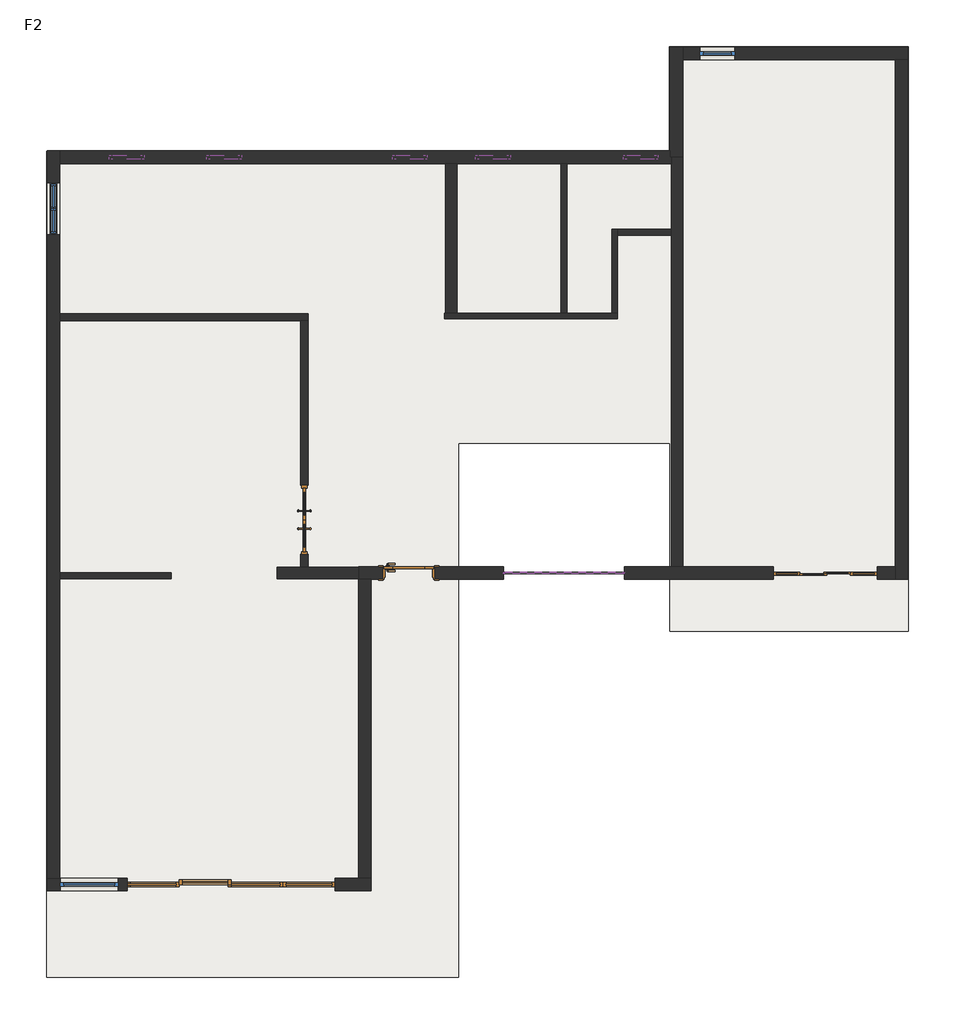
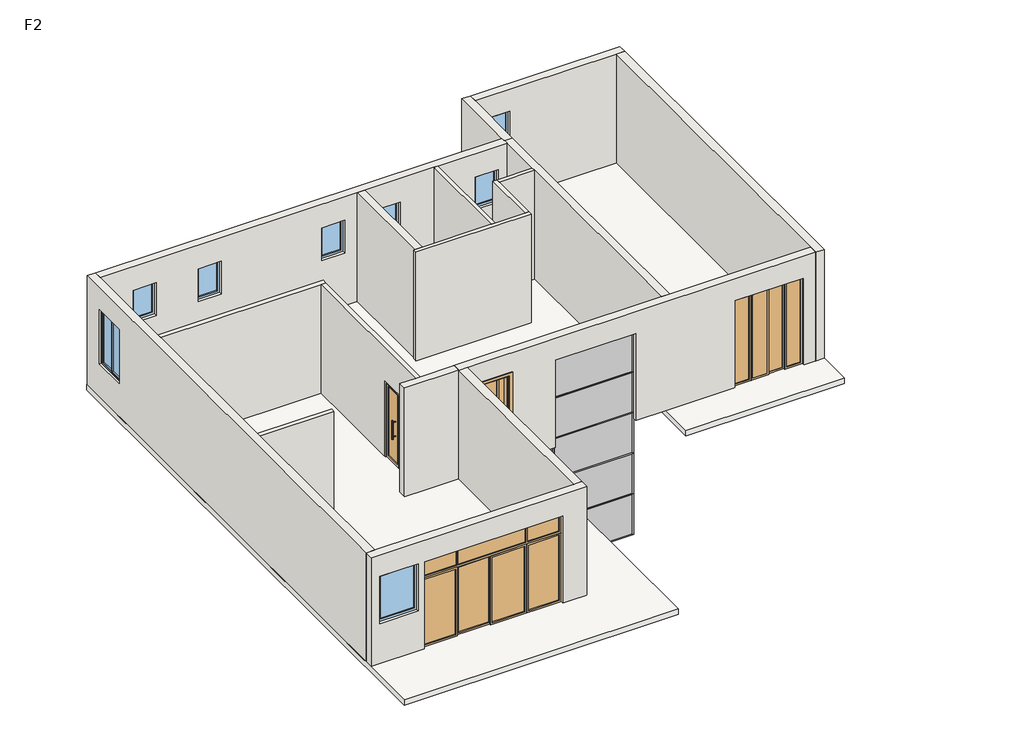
# One storey: 18 walls, 16 members, 8 windows, 5 plates, 4 doors, 1 slab.
"""IFC4 building model written with IfcOpenShell, lengths in millimetres."""

from ifc_helpers import new_model, si_unit, frame, origin, place, context, project, spatial, polyline, outline, extrude, faceted_brep, transform, mapped, element, save
from components import door_0924_8836e307, door_1200_x_2100mm_28484c29, ym3267_4c35834f, ym3627_ym3624_cbced519, member_36abf0b9, member_8a8b1aba, member_6a4487dd, member_cb581688, member_e9ca11cf, plate_7d49b9b0, plate_fc9b985f, c0615_c0609_9743c050, c0615_c0615_013a5557, c0615_c1023_ef9932f1, c0915_c0915_c0da6e5c

model = new_model("IFC4")

# Units and contexts
model_context = context("Model", 3, world=origin())
ifc_project = project(units=[si_unit("LENGTHUNIT", "METRE", prefix="MILLI")], contexts=[model_context])

# Site, building, storey
site = spatial("IfcSite", under=ifc_project)
building = spatial("IfcBuilding", under=site)
storey = spatial("IfcBuildingStorey", under=building, Name="F2", Elevation=3300.0)

# Doors
placement = place(None, origin())
door_0924_shape = door_0924_8836e307(model_context)
element("IfcDoor", 1, ObjectType="单扇平开门-木门 : 0924", at=placement, inside=storey, context=model_context, shape_type="MappedRepresentation", body=[
    mapped(door_0924_shape, transform((-10695.9782681, -8531.0286905, 3300.0), x_axis=(1.0, 0.0, 0.0), y_axis=(0.0, 1.0, 0.0), z_axis=(0.0, 0.0, 1.0))),
])
door_1200_x_2100mm_shape = door_1200_x_2100mm_28484c29(model_context)
element("IfcDoor", 2, ObjectType="双面嵌板玻璃门 : 1200 x 2100mm", at=placement, inside=storey, context=model_context, shape_type="MappedRepresentation", body=[
    mapped(door_1200_x_2100mm_shape, transform((-12505.9782681, -7611.0286905, 3300.0), x_axis=(0.0, -1.0, 0.0), y_axis=(1.0, 0.0, 0.0), z_axis=(0.0, 0.0, 1.0))),
])
ym3267_shape = ym3267_4c35834f(model_context)
element("IfcDoor", 3, ObjectType="移门-推拉门 : YM3267", at=placement, inside=storey, context=model_context, shape_type="MappedRepresentation", body=[
    mapped(ym3267_shape, transform((-3475.9782681, -8531.0286905, 3300.0), x_axis=(-1.0, 0.0, 0.0), y_axis=(0.0, -1.0, 0.0), z_axis=(0.0, 0.0, 1.0))),
])
ym3627_ym3624_shape = ym3627_ym3624_cbced519(model_context)
element("IfcDoor", 4, ObjectType="YM3627 : YM3624", at=placement, inside=storey, context=model_context, shape_type="MappedRepresentation", body=[
    mapped(ym3627_ym3624_shape, transform((-13775.9782681, -13931.0286905, 3300.0), x_axis=(-1.0, 0.0, 0.0), y_axis=(0.0, -1.0, 0.0), z_axis=(0.0, 0.0, 1.0))),
])

# Members
member_shape = member_36abf0b9(model_context)
element("IfcMember", 5, ObjectType="矩形竖梃 : 30mm 正方形", at=placement, inside=storey, context=model_context, shape_type="MappedRepresentation", body=[
    mapped(member_shape, transform((-6985.9782681, -8531.0286905, 1235.0), x_axis=(0.0, 0.0, 1.0), y_axis=(0.0, -1.0, 0.0), z_axis=(1.0, 0.0, 0.0))),
])
element("IfcMember", 6, ObjectType="矩形竖梃 : 30mm 正方形", at=placement, inside=storey, context=model_context, shape_type="MappedRepresentation", body=[
    mapped(member_shape, transform((-6985.9782681, -8531.0286905, 2355.0), x_axis=(0.0, 0.0, 1.0), y_axis=(0.0, -1.0, 0.0), z_axis=(1.0, 0.0, 0.0))),
])
element("IfcMember", 7, ObjectType="矩形竖梃 : 30mm 正方形", at=placement, inside=storey, context=model_context, shape_type="MappedRepresentation", body=[
    mapped(member_shape, transform((-6985.9782681, -8531.0286905, 3475.0), x_axis=(0.0, 0.0, 1.0), y_axis=(0.0, -1.0, 0.0), z_axis=(1.0, 0.0, 0.0))),
])
element("IfcMember", 8, ObjectType="矩形竖梃 : 30mm 正方形", at=placement, inside=storey, context=model_context, shape_type="MappedRepresentation", body=[
    mapped(member_shape, transform((-6985.9782681, -8531.0286905, 4595.0), x_axis=(0.0, 0.0, 1.0), y_axis=(0.0, -1.0, 0.0), z_axis=(1.0, 0.0, 0.0))),
])
member_2_shape = member_8a8b1aba(model_context)
element("IfcMember", 9, ObjectType="矩形竖梃 : 30mm 正方形", at=placement, inside=storey, context=model_context, shape_type="MappedRepresentation", body=[
    mapped(member_2_shape, transform((-6985.9782681, -8531.0286905, 5700.0), x_axis=(0.0, 0.0, 1.0), y_axis=(0.0, -1.0, 0.0), z_axis=(1.0, 0.0, 0.0))),
])
element("IfcMember", 10, ObjectType="矩形竖梃 : 30mm 正方形", at=placement, inside=storey, context=model_context, shape_type="MappedRepresentation", body=[
    mapped(member_2_shape, transform((-9025.9782681, -8531.0286905, 100.0), x_axis=(0.0, 0.0, -1.0), y_axis=(0.0, -1.0, 0.0), z_axis=(-1.0, 0.0, 0.0))),
])
member_3_shape = member_6a4487dd(model_context)
element("IfcMember", 11, ObjectType="矩形竖梃 : 30mm 正方形", at=placement, inside=storey, context=model_context, shape_type="MappedRepresentation", body=[
    mapped(member_3_shape, transform((-6955.9782681, -8531.0286905, 100.0), x_axis=(1.0, 0.0, 0.0), y_axis=(0.0, -1.0, 0.0), z_axis=(0.0, 0.0, -1.0))),
])
member_4_shape = member_cb581688(model_context)
element("IfcMember", 12, ObjectType="矩形竖梃 : 30mm 正方形", at=placement, inside=storey, context=model_context, shape_type="MappedRepresentation", body=[
    mapped(member_4_shape, transform((-6955.9782681, -8531.0286905, 1235.0), x_axis=(1.0, 0.0, 0.0), y_axis=(0.0, -1.0, 0.0), z_axis=(0.0, 0.0, -1.0))),
])
element("IfcMember", 13, ObjectType="矩形竖梃 : 30mm 正方形", at=placement, inside=storey, context=model_context, shape_type="MappedRepresentation", body=[
    mapped(member_4_shape, transform((-6955.9782681, -8531.0286905, 2355.0), x_axis=(1.0, 0.0, 0.0), y_axis=(0.0, -1.0, 0.0), z_axis=(0.0, 0.0, -1.0))),
])
element("IfcMember", 14, ObjectType="矩形竖梃 : 30mm 正方形", at=placement, inside=storey, context=model_context, shape_type="MappedRepresentation", body=[
    mapped(member_4_shape, transform((-6955.9782681, -8531.0286905, 3475.0), x_axis=(1.0, 0.0, 0.0), y_axis=(0.0, -1.0, 0.0), z_axis=(0.0, 0.0, -1.0))),
])
member_5_shape = member_e9ca11cf(model_context)
element("IfcMember", 15, ObjectType="矩形竖梃 : 30mm 正方形", at=placement, inside=storey, context=model_context, shape_type="MappedRepresentation", body=[
    mapped(member_5_shape, transform((-6955.9782681, -8531.0286905, 4595.0), x_axis=(1.0, 0.0, 0.0), y_axis=(0.0, -1.0, 0.0), z_axis=(0.0, 0.0, -1.0))),
])
element("IfcMember", 16, ObjectType="矩形竖梃 : 30mm 正方形", at=placement, inside=storey, context=model_context, shape_type="MappedRepresentation", body=[
    mapped(member_5_shape, transform((-9055.9782681, -8531.0286905, 5700.0), x_axis=(-1.0, 0.0, 0.0), y_axis=(0.0, -1.0, 0.0), z_axis=(0.0, 0.0, 1.0))),
])
element("IfcMember", 17, ObjectType="矩形竖梃 : 30mm 正方形", at=placement, inside=storey, context=model_context, shape_type="MappedRepresentation", body=[
    mapped(member_3_shape, transform((-9055.9782681, -8531.0286905, 1235.0), x_axis=(-1.0, 0.0, 0.0), y_axis=(0.0, -1.0, 0.0), z_axis=(0.0, 0.0, 1.0))),
])
element("IfcMember", 18, ObjectType="矩形竖梃 : 30mm 正方形", at=placement, inside=storey, context=model_context, shape_type="MappedRepresentation", body=[
    mapped(member_4_shape, transform((-9055.9782681, -8531.0286905, 2355.0), x_axis=(-1.0, 0.0, 0.0), y_axis=(0.0, -1.0, 0.0), z_axis=(0.0, 0.0, 1.0))),
])
element("IfcMember", 19, ObjectType="矩形竖梃 : 30mm 正方形", at=placement, inside=storey, context=model_context, shape_type="MappedRepresentation", body=[
    mapped(member_4_shape, transform((-9055.9782681, -8531.0286905, 3475.0), x_axis=(-1.0, 0.0, 0.0), y_axis=(0.0, -1.0, 0.0), z_axis=(0.0, 0.0, 1.0))),
])
element("IfcMember", 20, ObjectType="矩形竖梃 : 30mm 正方形", at=placement, inside=storey, context=model_context, shape_type="MappedRepresentation", body=[
    mapped(member_4_shape, transform((-9055.9782681, -8531.0286905, 4595.0), x_axis=(-1.0, 0.0, 0.0), y_axis=(0.0, -1.0, 0.0), z_axis=(0.0, 0.0, 1.0))),
])

# Plates
plate_shape = plate_7d49b9b0(model_context)
element("IfcPlate", 21, ObjectType="系统嵌板 : 玻璃", at=placement, inside=storey, context=model_context, shape_type="MappedRepresentation", body=[
    mapped(plate_shape, transform((-8005.9782681, -8531.0286905, 130.0), x_axis=(1.0, 0.0, 0.0), y_axis=(0.0, 1.0, 0.0), z_axis=(0.0, 0.0, 1.0))),
])
element("IfcPlate", 22, ObjectType="系统嵌板 : 玻璃", at=placement, inside=storey, context=model_context, shape_type="MappedRepresentation", body=[
    mapped(plate_shape, transform((-8005.9782681, -8531.0286905, 1250.0), x_axis=(1.0, 0.0, 0.0), y_axis=(0.0, 1.0, 0.0), z_axis=(0.0, 0.0, 1.0))),
])
element("IfcPlate", 23, ObjectType="系统嵌板 : 玻璃", at=placement, inside=storey, context=model_context, shape_type="MappedRepresentation", body=[
    mapped(plate_shape, transform((-8005.9782681, -8531.0286905, 2370.0), x_axis=(1.0, 0.0, 0.0), y_axis=(0.0, 1.0, 0.0), z_axis=(0.0, 0.0, 1.0))),
])
element("IfcPlate", 24, ObjectType="系统嵌板 : 玻璃", at=placement, inside=storey, context=model_context, shape_type="MappedRepresentation", body=[
    mapped(plate_shape, transform((-8005.9782681, -8531.0286905, 3490.0), x_axis=(1.0, 0.0, 0.0), y_axis=(0.0, 1.0, 0.0), z_axis=(0.0, 0.0, 1.0))),
])
plate_2_shape = plate_fc9b985f(model_context)
element("IfcPlate", 25, ObjectType="系统嵌板 : 玻璃", at=placement, inside=storey, context=model_context, shape_type="MappedRepresentation", body=[
    mapped(plate_2_shape, transform((-8005.9782681, -8531.0286905, 4610.0), x_axis=(1.0, 0.0, 0.0), y_axis=(0.0, 1.0, 0.0), z_axis=(0.0, 0.0, 1.0))),
])

# Slab
element("IfcSlab", 26, ObjectType="常规 - 150mm", at=placement, inside=storey, context=model_context, shape_type="SweptSolid", body=[
    extrude(outline(polyline([(-9835.9782681, -15541.0286905), (-16975.9782681, -15541.0286905), (-16975.9782681, -1221.0286905), (-6175.9782681, -1221.0286905), (-6175.9782681, 588.9713095), (-2035.9782681, 588.9713095), (-2035.9782681, -9541.0286905), (-6165.9782681, -9541.0286905), (-6165.9782681, -6281.0286905), (-9835.9782681, -6281.0286905), (-9835.9782681, -15541.0286905)])), frame((0.0, 0.0, 3150.0), z_axis=(0.0, 0.0, 1.0), x_axis=(1.0, 0.0, 0.0)), (0.0, 0.0, 1.0), 150.0),
])

# Walls
element("IfcWall", 27, ObjectType="内部 - 砌块墙 100", at=placement, inside=storey, context=model_context, shape_type="Brep", body=[
    faceted_brep([(-16745.9782681, -4163.0286905, 3300.0), (-12567.9782681, -4163.0286905, 3300.0), (-12443.9782681, -4163.0286905, 3300.0), (-12443.9782681, -4163.0286905, 6300.0), (-12567.9782681, -4163.0286905, 6300.0), (-16745.9782681, -4163.0286905, 6300.0), (-16745.9782681, -4039.0286905, 3300.0), (-16745.9782681, -4039.0286905, 6300.0), (-12443.9782681, -4039.0286905, 6300.0), (-12443.9782681, -4039.0286905, 3300.0)], [[[0, 1, 2, 3, 4, 5]], [[6, 7, 8, 9]], [[2, 1, 0, 6, 9]], [[5, 4, 3, 8, 7]], [[0, 5, 7, 6]], [[3, 2, 9, 8]]]),
])
element("IfcWall", 28, ObjectType="内部 - 砌块墙 100", at=placement, inside=storey, context=model_context, shape_type="SweptSolid", body=[
    extrude(outline(polyline([(-8431.0286905, 6300.0), (-4163.0286905, 6300.0), (-4163.0286905, 3300.0), (-7011.0286905, 3300.0), (-7011.0286905, 5400.0), (-8211.0286905, 5400.0), (-8211.0286905, 3300.0), (-8431.0286905, 3300.0), (-8431.0286905, 6300.0)])), frame((-12567.9782681, 0.0, 0.0), z_axis=(1.0, 0.0, 0.0), x_axis=(0.0, 1.0, 0.0)), (0.0, 0.0, 1.0), 124.0),
])
element("IfcWall", 29, ObjectType="常规 - 200mm", at=placement, inside=storey, context=model_context, shape_type="Brep", body=[
    faceted_brep([(-11565.9782681, -8431.0286905, 3300.0), (-12443.9782681, -8431.0286905, 3300.0), (-12567.9782681, -8431.0286905, 3300.0), (-12975.9782681, -8431.0286905, 3300.0), (-12975.9782681, -8431.0286905, 6300.0), (-12567.9782681, -8431.0286905, 6300.0), (-12443.9782681, -8431.0286905, 6300.0), (-11565.9782681, -8431.0286905, 6300.0), (-11565.9782681, -8631.0286905, 3300.0), (-11565.9782681, -8631.0286905, 6300.0), (-12975.9782681, -8631.0286905, 6300.0), (-12975.9782681, -8631.0286905, 3300.0)], [[[0, 1, 2, 3, 4, 5, 6, 7]], [[8, 9, 10, 11]], [[3, 2, 1, 0, 8, 11]], [[4, 3, 11, 10]], [[7, 6, 5, 4, 10, 9]], [[0, 7, 9, 8]]]),
])
element("IfcWall", 30, ObjectType="常规 - 100mm 砌体", at=placement, inside=storey, context=model_context, shape_type="SweptSolid", body=[
    extrude(outline(polyline([(-16745.9782681, -8531.0286905), (-14815.9782681, -8531.0286905), (-14815.9782681, -8631.0286905), (-16745.9782681, -8631.0286905), (-16745.9782681, -8531.0286905)])), frame((0.0, 0.0, 3300.0), z_axis=(0.0, 0.0, 1.0), x_axis=(1.0, 0.0, 0.0)), (0.0, 0.0, 1.0), 3000.0),
])
element("IfcWall", 31, ObjectType="常规 - 200mm", at=placement, inside=storey, context=model_context, shape_type="SweptSolid", body=[
    extrude(outline(polyline([(-10055.9782681, -4031.0286905), (-10055.9782681, -1441.0286905), (-9855.9782681, -1441.0286905), (-9855.9782681, -4031.0286905), (-10055.9782681, -4031.0286905)])), frame((0.0, 0.0, 3300.0), z_axis=(0.0, 0.0, 1.0), x_axis=(1.0, 0.0, 0.0)), (0.0, 0.0, 1.0), 3000.0),
])
element("IfcWall", 32, ObjectType="常规 - 100mm 砌体", at=placement, inside=storey, context=model_context, shape_type="Brep", body=[
    faceted_brep([(-10075.9782681, -4131.0286905, 3300.0), (-7075.9782681, -4131.0286905, 3300.0), (-7075.9782681, -4131.0286905, 6300.0), (-10075.9782681, -4131.0286905, 6300.0), (-10075.9782681, -4031.0286905, 3300.0), (-10075.9782681, -4031.0286905, 6300.0), (-8055.9782681, -4031.0286905, 6300.0), (-7955.9782681, -4031.0286905, 6300.0), (-7175.9782681, -4031.0286905, 6300.0), (-7075.9782681, -4031.0286905, 6300.0), (-7075.9782681, -4031.0286905, 3300.0), (-7175.9782681, -4031.0286905, 3300.0), (-7955.9782681, -4031.0286905, 3300.0), (-8055.9782681, -4031.0286905, 3300.0)], [[[0, 1, 2, 3]], [[4, 5, 6, 7, 8, 9, 10, 11, 12, 13]], [[1, 0, 4, 13, 12, 11, 10]], [[3, 2, 9, 8, 7, 6, 5]], [[0, 3, 5, 4]], [[2, 1, 10, 9]]]),
])
element("IfcWall", 33, ObjectType="常规 - 100mm 砌体", at=placement, inside=storey, context=model_context, shape_type="Brep", body=[
    faceted_brep([(-7075.9782681, -4031.0286905, 3300.0), (-7075.9782681, -2681.0286905, 3300.0), (-7075.9782681, -2581.0286905, 3300.0), (-7075.9782681, -2581.0286905, 6300.0), (-7075.9782681, -2681.0286905, 6300.0), (-7075.9782681, -4031.0286905, 6300.0), (-7175.9782681, -4031.0286905, 3300.0), (-7175.9782681, -4031.0286905, 6300.0), (-7175.9782681, -2581.0286905, 6300.0), (-7175.9782681, -2581.0286905, 3300.0)], [[[0, 1, 2, 3, 4, 5]], [[6, 7, 8, 9]], [[2, 1, 0, 6, 9]], [[5, 4, 3, 8, 7]], [[0, 5, 7, 6]], [[3, 2, 9, 8]]]),
])
element("IfcWall", 34, ObjectType="常规 - 100mm 砌体", at=placement, inside=storey, context=model_context, shape_type="SweptSolid", body=[
    extrude(outline(polyline([(-6145.9782681, -2681.0286905), (-7075.9782681, -2681.0286905), (-7075.9782681, -2581.0286905), (-6145.9782681, -2581.0286905), (-6145.9782681, -2681.0286905)])), frame((0.0, 0.0, 3300.0), z_axis=(0.0, 0.0, 1.0), x_axis=(1.0, 0.0, 0.0)), (0.0, 0.0, 1.0), 3000.0),
])
element("IfcWall", 35, ObjectType="常规 - 200mm", at=placement, inside=storey, context=model_context, shape_type="Brep", body=[
    faceted_brep([(-5945.9782681, -8421.0286905, 3300.0), (-5945.9782681, -1331.0286905, 3300.0), (-5945.9782681, -1331.0286905, 6300.0), (-5945.9782681, -8421.0286905, 6300.0), (-6145.9782681, -8421.0286905, 3300.0), (-6145.9782681, -8421.0286905, 6300.0), (-6145.9782681, -2681.0286905, 6300.0), (-6145.9782681, -2581.0286905, 6300.0), (-6145.9782681, -1441.0286905, 6300.0), (-6145.9782681, -1331.0286905, 6300.0), (-6145.9782681, -1331.0286905, 3300.0), (-6145.9782681, -1441.0286905, 3300.0), (-6145.9782681, -2581.0286905, 3300.0), (-6145.9782681, -2681.0286905, 3300.0)], [[[0, 1, 2, 3]], [[4, 5, 6, 7, 8, 9, 10, 11, 12, 13]], [[1, 0, 4, 13, 12, 11, 10]], [[2, 1, 10, 9]], [[3, 2, 9, 8, 7, 6, 5]], [[0, 3, 5, 4]]]),
])
element("IfcWall", 36, ObjectType="常规 - 100mm 砌体", at=placement, inside=storey, context=model_context, shape_type="SweptSolid", body=[
    extrude(outline(polyline([(-7955.9782681, -1441.0286905), (-7955.9782681, -4031.0286905), (-8055.9782681, -4031.0286905), (-8055.9782681, -1441.0286905), (-7955.9782681, -1441.0286905)])), frame((0.0, 0.0, 3300.0), z_axis=(0.0, 0.0, 1.0), x_axis=(1.0, 0.0, 0.0)), (0.0, 0.0, 1.0), 3000.0),
])
element("IfcWall", 37, ObjectType="F2", at=placement, inside=storey, context=model_context, shape_type="Brep", body=[
    faceted_brep([(-16965.9782681, -13821.0286905, 6300.0), (-16745.9782681, -13821.0286905, 6300.0), (-11565.9782681, -13821.0286905, 6300.0), (-11345.9782681, -13821.0286905, 6300.0), (-11345.9782681, -13821.0286905, 3300.0), (-11565.9782681, -13821.0286905, 3300.0), (-11975.9782681, -13821.0286905, 3300.0), (-11975.9782681, -13821.0286905, 5700.0), (-15575.9782681, -13821.0286905, 5700.0), (-15575.9782681, -13821.0286905, 3300.0), (-16745.9782681, -13821.0286905, 3300.0), (-16965.9782681, -13821.0286905, 3300.0), (-16735.9782681, -13821.0286905, 4400.0), (-15735.9782681, -13821.0286905, 4400.0), (-15735.9782681, -13821.0286905, 5700.0), (-16735.9782681, -13821.0286905, 5700.0), (-11345.9782681, -14041.0286905, 6300.0), (-16965.9782681, -14041.0286905, 6300.0), (-16965.9782681, -14041.0286905, 3300.0), (-15575.9782681, -14041.0286905, 3300.0), (-15575.9782681, -14041.0286905, 5700.0), (-11975.9782681, -14041.0286905, 5700.0), (-11975.9782681, -14041.0286905, 3300.0), (-11345.9782681, -14041.0286905, 3300.0), (-16735.9782681, -14041.0286905, 4400.0), (-16735.9782681, -14041.0286905, 5700.0), (-15735.9782681, -14041.0286905, 5700.0), (-15735.9782681, -14041.0286905, 4400.0)], [[[0, 1, 2, 3, 4, 5, 6, 7, 8, 9, 10, 11], [12, 13, 14, 15]], [[16, 17, 18, 19, 20, 21, 22, 23], [24, 25, 26, 27]], [[18, 11, 10, 9, 19]], [[4, 23, 22, 6, 5]], [[3, 2, 1, 0, 17, 16]], [[0, 11, 18, 17]], [[4, 3, 16, 23]], [[21, 7, 6, 22]], [[7, 21, 20, 8]], [[8, 20, 19, 9]], [[25, 24, 12, 15]], [[26, 25, 15, 14]], [[27, 26, 14, 13]], [[24, 27, 13, 12]]]),
])
element("IfcWall", 38, ObjectType="F2", at=placement, inside=storey, context=model_context, shape_type="Brep", body=[
    faceted_brep([(-16745.9782681, -13821.0286905, 3300.0), (-16745.9782681, -8631.0286905, 3300.0), (-16745.9782681, -8531.0286905, 3300.0), (-16745.9782681, -4163.0286905, 3300.0), (-16745.9782681, -4039.0286905, 3300.0), (-16745.9782681, -1441.0286905, 3300.0), (-16745.9782681, -1221.0286905, 3300.0), (-16745.9782681, -1221.0286905, 6300.0), (-16745.9782681, -1441.0286905, 6300.0), (-16745.9782681, -4039.0286905, 6300.0), (-16745.9782681, -4163.0286905, 6300.0), (-16745.9782681, -8531.0286905, 6300.0), (-16745.9782681, -8631.0286905, 6300.0), (-16745.9782681, -13821.0286905, 6300.0), (-16745.9782681, -1771.0286905, 4200.0), (-16745.9782681, -2671.0286905, 4200.0), (-16745.9782681, -2671.0286905, 5700.0), (-16745.9782681, -1771.0286905, 5700.0), (-16965.9782681, -13821.0286905, 3300.0), (-16965.9782681, -13821.0286905, 6300.0), (-16965.9782681, -1221.0286905, 6300.0), (-16965.9782681, -1221.0286905, 3300.0), (-16965.9782681, -1771.0286905, 4200.0), (-16965.9782681, -1771.0286905, 5700.0), (-16965.9782681, -2671.0286905, 5700.0), (-16965.9782681, -2671.0286905, 4200.0)], [[[0, 1, 2, 3, 4, 5, 6, 7, 8, 9, 10, 11, 12, 13], [14, 15, 16, 17]], [[18, 19, 20, 21], [22, 23, 24, 25]], [[6, 5, 4, 3, 2, 1, 0, 18, 21]], [[13, 12, 11, 10, 9, 8, 7, 20, 19]], [[0, 13, 19, 18]], [[7, 6, 21, 20]], [[23, 22, 14, 17]], [[24, 23, 17, 16]], [[25, 24, 16, 15]], [[22, 25, 15, 14]]]),
])
element("IfcWall", 39, ObjectType="F2", at=placement, inside=storey, context=model_context, shape_type="Brep", body=[
    faceted_brep([(-16745.9782681, -1441.0286905, 3300.0), (-10055.9782681, -1441.0286905, 3300.0), (-9855.9782681, -1441.0286905, 3300.0), (-8055.9782681, -1441.0286905, 3300.0), (-7955.9782681, -1441.0286905, 3300.0), (-6145.9782681, -1441.0286905, 3300.0), (-6145.9782681, -1441.0286905, 6300.0), (-7955.9782681, -1441.0286905, 6300.0), (-8055.9782681, -1441.0286905, 6300.0), (-9855.9782681, -1441.0286905, 6300.0), (-10055.9782681, -1441.0286905, 6300.0), (-16745.9782681, -1441.0286905, 6300.0), (-15885.9782681, -1441.0286905, 4750.0), (-15885.9782681, -1441.0286905, 5650.0), (-15285.9782681, -1441.0286905, 5650.0), (-15285.9782681, -1441.0286905, 4750.0), (-14195.9782681, -1441.0286905, 4750.0), (-14195.9782681, -1441.0286905, 5650.0), (-13595.9782681, -1441.0286905, 5650.0), (-13595.9782681, -1441.0286905, 4750.0), (-10975.9782681, -1441.0286905, 4750.0), (-10975.9782681, -1441.0286905, 5650.0), (-10375.9782681, -1441.0286905, 5650.0), (-10375.9782681, -1441.0286905, 4750.0), (-9535.9782681, -1441.0286905, 4750.0), (-9535.9782681, -1441.0286905, 5650.0), (-8935.9782681, -1441.0286905, 5650.0), (-8935.9782681, -1441.0286905, 4750.0), (-6975.9782681, -1441.0286905, 4750.0), (-6975.9782681, -1441.0286905, 5650.0), (-6375.9782681, -1441.0286905, 5650.0), (-6375.9782681, -1441.0286905, 4750.0), (-16745.9782681, -1221.0286905, 3300.0), (-16745.9782681, -1221.0286905, 6300.0), (-6165.9782681, -1221.0286905, 6300.0), (-6165.9782681, -1221.0286905, 3300.0), (-15885.9782681, -1221.0286905, 4750.0), (-15285.9782681, -1221.0286905, 4750.0), (-15285.9782681, -1221.0286905, 5650.0), (-15885.9782681, -1221.0286905, 5650.0), (-14195.9782681, -1221.0286905, 4750.0), (-13595.9782681, -1221.0286905, 4750.0), (-13595.9782681, -1221.0286905, 5650.0), (-14195.9782681, -1221.0286905, 5650.0), (-10975.9782681, -1221.0286905, 4750.0), (-10375.9782681, -1221.0286905, 4750.0), (-10375.9782681, -1221.0286905, 5650.0), (-10975.9782681, -1221.0286905, 5650.0), (-9535.9782681, -1221.0286905, 4750.0), (-8935.9782681, -1221.0286905, 4750.0), (-8935.9782681, -1221.0286905, 5650.0), (-9535.9782681, -1221.0286905, 5650.0), (-6975.9782681, -1221.0286905, 4750.0), (-6375.9782681, -1221.0286905, 4750.0), (-6375.9782681, -1221.0286905, 5650.0), (-6975.9782681, -1221.0286905, 5650.0), (-6165.9782681, -1331.0286905, 3300.0), (-6145.9782681, -1331.0286905, 3300.0), (-6145.9782681, -1331.0286905, 6300.0), (-6165.9782681, -1331.0286905, 6300.0)], [[[0, 1, 2, 3, 4, 5, 6, 7, 8, 9, 10, 11], [12, 13, 14, 15], [16, 17, 18, 19], [20, 21, 22, 23], [24, 25, 26, 27], [28, 29, 30, 31]], [[32, 33, 34, 35], [36, 37, 38, 39], [40, 41, 42, 43], [44, 45, 46, 47], [48, 49, 50, 51], [52, 53, 54, 55]], [[5, 4, 3, 2, 1, 0, 32, 35, 56, 57]], [[11, 10, 9, 8, 7, 6, 58, 59, 34, 33]], [[0, 11, 33, 32]], [[6, 5, 57, 58]], [[57, 56, 59, 58]], [[56, 35, 34, 59]], [[13, 12, 36, 39]], [[14, 13, 39, 38]], [[15, 14, 38, 37]], [[12, 15, 37, 36]], [[17, 16, 40, 43]], [[18, 17, 43, 42]], [[19, 18, 42, 41]], [[16, 19, 41, 40]], [[21, 20, 44, 47]], [[22, 21, 47, 46]], [[23, 22, 46, 45]], [[20, 23, 45, 44]], [[25, 24, 48, 51]], [[26, 25, 51, 50]], [[27, 26, 50, 49]], [[24, 27, 49, 48]], [[29, 28, 52, 55]], [[30, 29, 55, 54]], [[31, 30, 54, 53]], [[28, 31, 53, 52]]]),
])
element("IfcWall", 40, ObjectType="F2", at=placement, inside=storey, context=model_context, shape_type="Brep", body=[
    faceted_brep([(-5945.9782681, -1331.0286905, 3300.0), (-5945.9782681, 358.9713095, 3300.0), (-5945.9782681, 578.9713095, 3300.0), (-5945.9782681, 578.9713095, 6300.0), (-5945.9782681, 358.9713095, 6300.0), (-5945.9782681, -1331.0286905, 6300.0), (-6165.9782681, -1331.0286905, 3300.0), (-6165.9782681, -1331.0286905, 6300.0), (-6165.9782681, -1221.0286905, 6300.0), (-6165.9782681, 578.9713095, 6300.0), (-6165.9782681, 578.9713095, 3300.0), (-6165.9782681, -1221.0286905, 3300.0), (-6145.9782681, -1331.0286905, 3300.0), (-6145.9782681, -1331.0286905, 6300.0)], [[[0, 1, 2, 3, 4, 5]], [[6, 7, 8, 9, 10, 11]], [[2, 1, 0, 12, 6, 11, 10]], [[5, 4, 3, 9, 8, 7, 13]], [[0, 5, 13, 7, 6, 12]], [[3, 2, 10, 9]]]),
])
element("IfcWall", 41, ObjectType="F2", at=placement, inside=storey, context=model_context, shape_type="Brep", body=[
    faceted_brep([(-5945.9782681, 358.9713095, 3300.0), (-2265.9782681, 358.9713095, 3300.0), (-2045.9782681, 358.9713095, 3300.0), (-2045.9782681, 358.9713095, 6300.0), (-2265.9782681, 358.9713095, 6300.0), (-5945.9782681, 358.9713095, 6300.0), (-5045.9782681, 358.9713095, 4200.0), (-5645.9782681, 358.9713095, 4200.0), (-5645.9782681, 358.9713095, 5700.0), (-5045.9782681, 358.9713095, 5700.0), (-5945.9782681, 578.9713095, 3300.0), (-5945.9782681, 578.9713095, 6300.0), (-2045.9782681, 578.9713095, 6300.0), (-2045.9782681, 578.9713095, 3300.0), (-5045.9782681, 578.9713095, 4200.0), (-5045.9782681, 578.9713095, 5700.0), (-5645.9782681, 578.9713095, 5700.0), (-5645.9782681, 578.9713095, 4200.0)], [[[0, 1, 2, 3, 4, 5], [6, 7, 8, 9]], [[10, 11, 12, 13], [14, 15, 16, 17]], [[2, 1, 0, 10, 13]], [[5, 4, 3, 12, 11]], [[0, 5, 11, 10]], [[3, 2, 13, 12]], [[15, 14, 6, 9]], [[16, 15, 9, 8]], [[17, 16, 8, 7]], [[14, 17, 7, 6]]]),
])
element("IfcWall", 42, ObjectType="F2", at=placement, inside=storey, context=model_context, shape_type="Brep", body=[
    faceted_brep([(-2265.9782681, 358.9713095, 3300.0), (-2265.9782681, -8421.0286905, 3300.0), (-2265.9782681, -8641.0286905, 3300.0), (-2265.9782681, -8641.0286905, 6300.0), (-2265.9782681, -8421.0286905, 6300.0), (-2265.9782681, 358.9713095, 6300.0), (-2045.9782681, 358.9713095, 3300.0), (-2045.9782681, 358.9713095, 6300.0), (-2045.9782681, -8641.0286905, 6300.0), (-2045.9782681, -8641.0286905, 3300.0)], [[[0, 1, 2, 3, 4, 5]], [[6, 7, 8, 9]], [[2, 1, 0, 6, 9]], [[5, 4, 3, 8, 7]], [[0, 5, 7, 6]], [[3, 2, 9, 8]]]),
])
element("IfcWall", 43, ObjectType="F2", at=placement, inside=storey, context=model_context, shape_type="Brep", body=[
    faceted_brep([(-11565.9782681, -8421.0286905, 6300.0), (-6145.9782681, -8421.0286905, 6300.0), (-5945.9782681, -8421.0286905, 6300.0), (-2265.9782681, -8421.0286905, 6300.0), (-2265.9782681, -8421.0286905, 3300.0), (-2575.9782681, -8421.0286905, 3300.0), (-2575.9782681, -8421.0286905, 5700.0), (-4375.9782681, -8421.0286905, 5700.0), (-4375.9782681, -8421.0286905, 3300.0), (-5945.9782681, -8421.0286905, 3300.0), (-6145.9782681, -8421.0286905, 3300.0), (-6165.9782681, -8421.0286905, 3300.0), (-6955.9782681, -8421.0286905, 3300.0), (-6955.9782681, -8421.0286905, 5700.0), (-9055.9782681, -8421.0286905, 5700.0), (-9055.9782681, -8421.0286905, 3300.0), (-10065.9782681, -8421.0286905, 3300.0), (-10245.9782681, -8421.0286905, 3300.0), (-10245.9782681, -8421.0286905, 5700.0), (-11145.9782681, -8421.0286905, 5700.0), (-11145.9782681, -8421.0286905, 3300.0), (-11565.9782681, -8421.0286905, 3300.0), (-2265.9782681, -8641.0286905, 6300.0), (-11345.9782681, -8641.0286905, 6300.0), (-11565.9782681, -8641.0286905, 6300.0), (-11565.9782681, -8641.0286905, 3300.0), (-11345.9782681, -8641.0286905, 3300.0), (-11145.9782681, -8641.0286905, 3300.0), (-11145.9782681, -8641.0286905, 5700.0), (-10245.9782681, -8641.0286905, 5700.0), (-10245.9782681, -8641.0286905, 3300.0), (-9055.9782681, -8641.0286905, 3300.0), (-9055.9782681, -8641.0286905, 5700.0), (-6955.9782681, -8641.0286905, 5700.0), (-6955.9782681, -8641.0286905, 3300.0), (-4375.9782681, -8641.0286905, 3300.0), (-4375.9782681, -8641.0286905, 5700.0), (-2575.9782681, -8641.0286905, 5700.0), (-2575.9782681, -8641.0286905, 3300.0), (-2265.9782681, -8641.0286905, 3300.0), (-11565.9782681, -8431.0286905, 3300.0), (-11565.9782681, -8631.0286905, 3300.0), (-11565.9782681, -8631.0286905, 6300.0), (-11565.9782681, -8431.0286905, 6300.0)], [[[0, 1, 2, 3, 4, 5, 6, 7, 8, 9, 10, 11, 12, 13, 14, 15, 16, 17, 18, 19, 20, 21]], [[22, 23, 24, 25, 26, 27, 28, 29, 30, 31, 32, 33, 34, 35, 36, 37, 38, 39]], [[4, 3, 22, 39]], [[0, 21, 40, 41, 25, 24, 42, 43]], [[7, 36, 35, 8]], [[36, 7, 6, 37]], [[37, 6, 5, 38]], [[29, 18, 17, 30]], [[18, 29, 28, 19]], [[19, 28, 27, 20]], [[5, 4, 39, 38]], [[12, 11, 10, 9, 8, 35, 34]], [[3, 2, 1, 0, 43, 42, 24, 23, 22]], [[13, 12, 34, 33]], [[14, 13, 33, 32]], [[15, 14, 32, 31]], [[25, 41, 40, 21, 20, 27, 26]], [[15, 31, 30, 17, 16]]]),
])
element("IfcWall", 44, ObjectType="F2", at=placement, inside=storey, context=model_context, shape_type="SweptSolid", body=[
    extrude(outline(polyline([(-11565.9782681, -13821.0286905), (-11565.9782681, -8641.0286905), (-11345.9782681, -8641.0286905), (-11345.9782681, -13821.0286905), (-11565.9782681, -13821.0286905)])), frame((0.0, 0.0, 3300.0), z_axis=(0.0, 0.0, 1.0), x_axis=(1.0, 0.0, 0.0)), (0.0, 0.0, 1.0), 3000.0),
])

# Windows
c0615_c0609_shape = c0615_c0609_9743c050(model_context)
element("IfcWindow", 45, ObjectType="C0615 : C0609", at=placement, inside=storey, context=model_context, shape_type="MappedRepresentation", body=[
    mapped(c0615_c0609_shape, transform((-15585.9782681, -1331.0286905, 3300.0), x_axis=(1.0, 0.0, 0.0), y_axis=(0.0, 1.0, 0.0), z_axis=(0.0, 0.0, 1.0))),
])
element("IfcWindow", 46, ObjectType="C0615 : C0609", at=placement, inside=storey, context=model_context, shape_type="MappedRepresentation", body=[
    mapped(c0615_c0609_shape, transform((-13895.9782681, -1331.0286905, 3300.0), x_axis=(1.0, 0.0, 0.0), y_axis=(0.0, 1.0, 0.0), z_axis=(0.0, 0.0, 1.0))),
])
element("IfcWindow", 47, ObjectType="C0615 : C0609", at=placement, inside=storey, context=model_context, shape_type="MappedRepresentation", body=[
    mapped(c0615_c0609_shape, transform((-10675.9782681, -1331.0286905, 3300.0), x_axis=(1.0, 0.0, 0.0), y_axis=(0.0, 1.0, 0.0), z_axis=(0.0, 0.0, 1.0))),
])
element("IfcWindow", 48, ObjectType="C0615 : C0609", at=placement, inside=storey, context=model_context, shape_type="MappedRepresentation", body=[
    mapped(c0615_c0609_shape, transform((-9235.9782681, -1331.0286905, 3300.0), x_axis=(1.0, 0.0, 0.0), y_axis=(0.0, 1.0, 0.0), z_axis=(0.0, 0.0, 1.0))),
])
element("IfcWindow", 49, ObjectType="C0615 : C0609", at=placement, inside=storey, context=model_context, shape_type="MappedRepresentation", body=[
    mapped(c0615_c0609_shape, transform((-6675.9782681, -1331.0286905, 3300.0), x_axis=(1.0, 0.0, 0.0), y_axis=(0.0, 1.0, 0.0), z_axis=(0.0, 0.0, 1.0))),
])
c0615_c0615_shape = c0615_c0615_013a5557(model_context)
element("IfcWindow", 50, ObjectType="C0615 : C0615", at=placement, inside=storey, context=model_context, shape_type="MappedRepresentation", body=[
    mapped(c0615_c0615_shape, transform((-5345.9782681, 468.9713095, 2750.0), x_axis=(-1.0, 0.0, 0.0), y_axis=(0.0, -1.0, 0.0), z_axis=(0.0, 0.0, 1.0))),
])
c0615_c1023_shape = c0615_c1023_ef9932f1(model_context)
element("IfcWindow", 51, ObjectType="C0615 : C1023", at=placement, inside=storey, context=model_context, shape_type="MappedRepresentation", body=[
    mapped(c0615_c1023_shape, transform((-16235.9782681, -13931.0286905, 2950.0), x_axis=(1.0, 0.0, 0.0), y_axis=(0.0, 1.0, 0.0), z_axis=(0.0, 0.0, 1.0))),
])
c0915_c0915_shape = c0915_c0915_c0da6e5c(model_context)
element("IfcWindow", 52, ObjectType="C0915 : C0915", at=placement, inside=storey, context=model_context, shape_type="MappedRepresentation", body=[
    mapped(c0915_c0915_shape, transform((-16855.9782681, -2221.0286905, 3300.0), x_axis=(0.0, -1.0, 0.0), y_axis=(1.0, 0.0, 0.0), z_axis=(0.0, 0.0, 1.0))),
])

save(model, "model.ifc")
